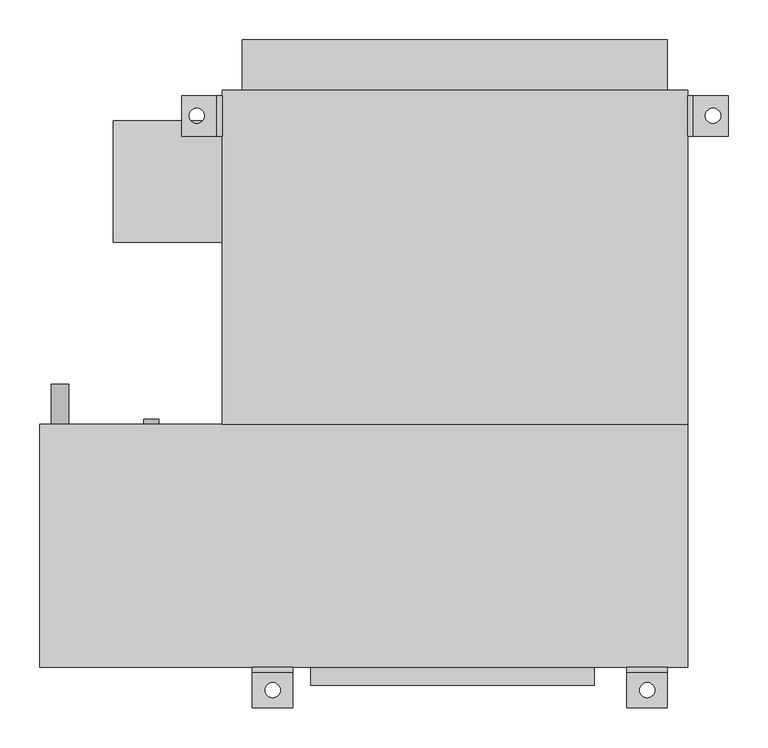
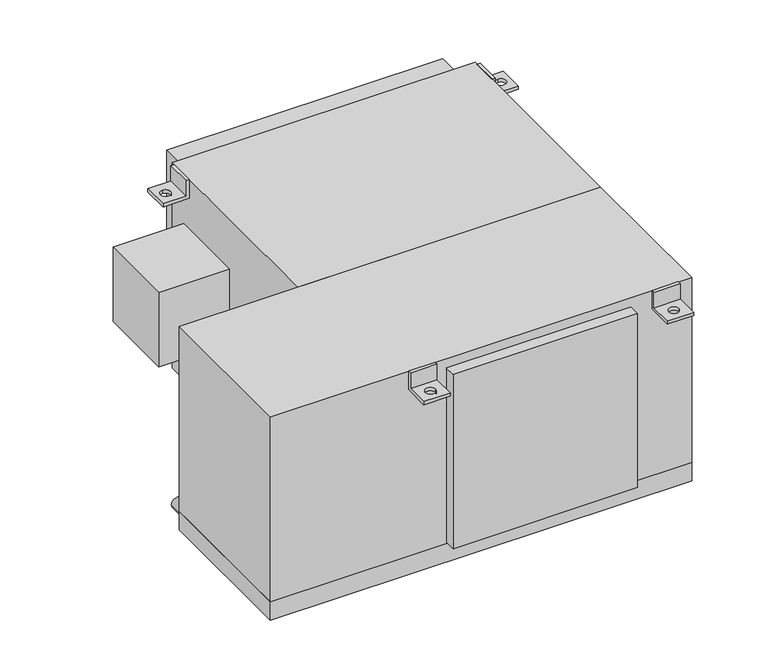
"""IFC4 building model written with IfcOpenShell, lengths in millimetres: proxy geometry, Concealed_High_Capacity_Horizontal_Fan_Coil_Unit_With_Plenum_-_42DCA_-_CARRIER_-_2-Pipe_Cool-EHeat_ValveEnclosure_LH_2022 : Size 06 - 277v/60Hz/1Ph - 6 Row 4.0kW."""

from ifc_helpers import new_model, si_unit, point, frame, frame_2d, origin, place, context, project, spatial, polyline, circle_curve, trimmed, segment, composite_curve, outline, extrude, source, transform, mapped, element, save
from ifc_brep_helpers import plane_surface, revolved_surface, advanced_brep


def mechanical_equipment_5e729664(model_context):
    return source(origin(), model_context, "Body", "SolidModel", [
        advanced_brep(
        [(419.1, -390.525, 0.0), (419.1, -396.875, 0.0), (419.1, -396.875, -31.75), (419.1, -441.325, -31.75), (419.1, -441.325, -38.1), (419.1, -390.525, -38.1), (368.3, -390.525, 0.0), (368.3, -390.525, -38.1), (368.3, -441.325, -38.1), (368.3, -441.325, -31.75), (368.3, -396.875, -31.75), (368.3, -396.875, 0.0), (384.175, -419.1, -31.75), (403.225, -419.1, -31.75), (403.225, -419.1, -38.1), (384.175, -419.1, -38.1)],
        [
            (0, 1),
            (1, 2),
            (2, 3),
            (3, 4),
            (4, 5),
            (5, 0),
            (6, 7),
            (7, 8),
            (8, 9),
            (9, 10),
            (10, 11),
            (11, 6),
            (0, 6),
            (11, 1),
            (10, 2),
            (9, 3),
            (12, 13, circle_curve(frame((393.7, -419.1, -31.75), z_axis=(0.0, 0.0, -1.0), x_axis=(1.0, 0.0, 0.0)), 9.525)),
            (13, 12, circle_curve(frame((393.7, -419.1, -31.75), z_axis=(0.0, 0.0, -1.0), x_axis=(1.0, 0.0, 0.0)), 9.525)),
            (8, 4),
            (7, 5),
            (14, 15, circle_curve(frame((393.7, -419.1, -38.1), z_axis=(0.0, 0.0, 1.0), x_axis=(1.0, 0.0, 0.0)), 9.525)),
            (15, 14, circle_curve(frame((393.7, -419.1, -38.1), z_axis=(0.0, 0.0, 1.0), x_axis=(1.0, 0.0, 0.0)), 9.525)),
            (12, 15),
            (14, 13),
        ],
        [
            plane_surface(frame((419.1, -396.875, 0.0), z_axis=(1.0, 0.0, 0.0), x_axis=(0.0, -1.0, 0.0))),
            plane_surface(frame((368.3, -396.875, 0.0), z_axis=(-1.0, 0.0, 0.0), x_axis=(0.0, 1.0, 0.0))),
            plane_surface(frame((419.1, -390.525, 0.0), z_axis=(0.0, 0.0, 1.0), x_axis=(-1.0, 0.0, 0.0))),
            plane_surface(frame((419.1, -396.875, 0.0), z_axis=(0.0, -1.0, 0.0), x_axis=(-1.0, 0.0, 0.0))),
            plane_surface(frame((419.1, -396.875, -31.75), z_axis=(0.0, 0.0, 1.0), x_axis=(-1.0, 0.0, 0.0))),
            plane_surface(frame((419.1, -441.325, -31.75), z_axis=(0.0, -1.0, 0.0), x_axis=(-1.0, 0.0, 0.0))),
            plane_surface(frame((419.1, -441.325, -38.1), z_axis=(0.0, 0.0, -1.0), x_axis=(-1.0, 0.0, 0.0))),
            plane_surface(frame((419.1, -390.525, -38.1), z_axis=(0.0, 1.0, 0.0), x_axis=(-1.0, 0.0, 0.0))),
            revolved_surface(polyline([(403.22499999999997, -419.1, -38.1), (403.22499999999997, -419.1, -31.75)]), (393.7, -419.1, -31.75), (0.0, 0.0, -1.0)),
        ],
        [
            (0, [[1, 2, 3, 4, 5, 6]]),
            (1, [[7, 8, 9, 10, 11, 12]]),
            (2, [[-1, 13, -12, 14]]),
            (3, [[-2, -14, -11, 15]]),
            (4, [[-3, -15, -10, 16], [17, 18]]),
            (5, [[-4, -16, -9, 19]]),
            (6, [[-5, -19, -8, 20], [21, 22]]),
            (7, [[-6, -20, -7, -13]]),
            (8, [[23, -21, 24, -17]]),
            (8, [[-23, -18, -24, -22]]),
        ],
    ),
        advanced_brep(
        [(-50.8, -390.525, -38.1), (-50.8, -390.525, 0.0), (-50.8, -396.875, 0.0), (-50.8, -396.875, -31.75), (-50.8, -441.325, -31.75), (-50.8, -441.325, -38.1), (-101.6, -390.525, -38.1), (-101.6, -441.325, -38.1), (-101.6, -441.325, -31.75), (-101.6, -396.875, -31.75), (-101.6, -396.875, 0.0), (-101.6, -390.525, 0.0), (-85.725, -419.1, -31.75), (-66.675, -419.1, -31.75), (-66.675, -419.1, -38.1), (-85.725, -419.1, -38.1)],
        [
            (0, 1),
            (1, 2),
            (2, 3),
            (3, 4),
            (4, 5),
            (5, 0),
            (6, 7),
            (7, 8),
            (8, 9),
            (9, 10),
            (10, 11),
            (11, 6),
            (0, 6),
            (11, 1),
            (10, 2),
            (9, 3),
            (8, 4),
            (12, 13, circle_curve(frame((-76.2, -419.1, -31.75), z_axis=(0.0, 0.0, -1.0), x_axis=(1.0, 0.0, 0.0)), 9.525)),
            (13, 12, circle_curve(frame((-76.2, -419.1, -31.75), z_axis=(0.0, 0.0, -1.0), x_axis=(1.0, 0.0, 0.0)), 9.525)),
            (7, 5),
            (14, 15, circle_curve(frame((-76.2, -419.1, -38.1), z_axis=(0.0, 0.0, 1.0), x_axis=(1.0, 0.0, 0.0)), 9.525)),
            (15, 14, circle_curve(frame((-76.2, -419.1, -38.1), z_axis=(0.0, 0.0, 1.0), x_axis=(1.0, 0.0, 0.0)), 9.525)),
            (12, 15),
            (14, 13),
        ],
        [
            plane_surface(frame((-50.8, -390.525, -38.1), z_axis=(1.0, 0.0, 0.0), x_axis=(0.0, 0.0, 1.0))),
            plane_surface(frame((-101.6, -390.525, -38.1), z_axis=(-1.0, 0.0, 0.0), x_axis=(0.0, 0.0, -1.0))),
            plane_surface(frame((-50.8, -390.525, -38.1), z_axis=(0.0, 1.0, 0.0), x_axis=(-1.0, 0.0, 0.0))),
            plane_surface(frame((-50.8, -390.525, 0.0), z_axis=(0.0, 0.0, 1.0), x_axis=(-1.0, 0.0, 0.0))),
            plane_surface(frame((-50.8, -396.875, 0.0), z_axis=(0.0, -1.0, 0.0), x_axis=(-1.0, 0.0, 0.0))),
            plane_surface(frame((-50.8, -396.875, -31.75), z_axis=(0.0, 0.0, 1.0), x_axis=(-1.0, 0.0, 0.0))),
            plane_surface(frame((-50.8, -441.325, -31.75), z_axis=(0.0, -1.0, 0.0), x_axis=(-1.0, 0.0, 0.0))),
            plane_surface(frame((-50.8, -441.325, -38.1), z_axis=(0.0, 0.0, -1.0), x_axis=(-1.0, 0.0, 0.0))),
            revolved_surface(polyline([(-66.675, -419.1, -38.1), (-66.675, -419.1, -31.75)]), (-76.2, -419.1, -31.75), (0.0, 0.0, -1.0)),
        ],
        [
            (0, [[1, 2, 3, 4, 5, 6]]),
            (1, [[7, 8, 9, 10, 11, 12]]),
            (2, [[-1, 13, -12, 14]]),
            (3, [[-2, -14, -11, 15]]),
            (4, [[-3, -15, -10, 16]]),
            (5, [[-4, -16, -9, 17], [18, 19]]),
            (6, [[-5, -17, -8, 20]]),
            (7, [[-6, -20, -7, -13], [21, 22]]),
            (8, [[23, -21, 24, -18]]),
            (8, [[-23, -19, -24, -22]]),
        ],
    ),
        extrude(outline(composite_curve([segment(trimmed(circle_curve(frame_2d((-400.05, -342.9)), 11.1125), [point((-400.05, -354.0125))], [point((-400.05, -331.7875))], False, "CARTESIAN"), True, "CONTINUOUS"), segment(trimmed(circle_curve(frame_2d((-400.05, -342.9)), 11.1125), [point((-400.05, -331.7875))], [point((-400.05, -354.0125))], False, "CARTESIAN"), True, "CONTINUOUS")], self_intersect=False)), frame((0.0, -85.725, 0.0), z_axis=(0.0, 1.0, 0.0), x_axis=(0.0, 0.0, 1.0)), (0.0, 0.0, 1.0), 50.8),
        extrude(outline(composite_curve([segment(trimmed(circle_curve(frame_2d((-44.45, -228.6)), 9.525), [point((-44.45, -238.125))], [point((-44.45, -219.075))], False, "CARTESIAN"), True, "CONTINUOUS"), segment(trimmed(circle_curve(frame_2d((-44.45, -228.6)), 9.525), [point((-44.45, -219.075))], [point((-44.45, -238.125))], False, "CARTESIAN"), True, "CONTINUOUS")], self_intersect=False)), frame((0.0, -85.725, 0.0), z_axis=(0.0, 1.0, 0.0), x_axis=(0.0, 0.0, 1.0)), (0.0, 0.0, 1.0), 6.35),
        extrude(outline(composite_curve([segment(trimmed(circle_curve(frame_2d((-276.225, -228.6)), 9.525), [point((-276.225, -238.125))], [point((-276.225, -219.075))], False, "CARTESIAN"), True, "CONTINUOUS"), segment(trimmed(circle_curve(frame_2d((-276.225, -228.6)), 9.525), [point((-276.225, -219.075))], [point((-276.225, -238.125))], False, "CARTESIAN"), True, "CONTINUOUS")], self_intersect=False)), frame((0.0, -85.725, 0.0), z_axis=(0.0, 1.0, 0.0), x_axis=(0.0, 0.0, 1.0)), (0.0, 0.0, 1.0), 6.35),
        advanced_brep(
        [(-139.7, 327.025, -38.1), (-190.5, 327.025, -38.1), (-190.5, 327.025, -31.75), (-146.05, 327.025, -31.75), (-146.05, 327.025, 0.0), (-139.7, 327.025, 0.0), (-139.7, 276.225, -38.1), (-139.7, 276.225, 0.0), (-146.05, 276.225, 0.0), (-146.05, 276.225, -31.75), (-190.5, 276.225, -31.75), (-190.5, 276.225, -38.1), (-171.45, 292.1, -38.1), (-171.45, 311.15, -38.1), (-171.45, 311.15, -31.75), (-171.45, 292.1, -31.75)],
        [
            (0, 1),
            (1, 2),
            (2, 3),
            (3, 4),
            (4, 5),
            (5, 0),
            (6, 7),
            (7, 8),
            (8, 9),
            (9, 10),
            (10, 11),
            (11, 6),
            (0, 6),
            (11, 1),
            (12, 13, circle_curve(frame((-171.45, 301.625, -38.1), z_axis=(0.0, 0.0, 1.0), x_axis=(0.0, -1.0, 0.0)), 9.525)),
            (13, 12, circle_curve(frame((-171.45, 301.625, -38.1), z_axis=(0.0, 0.0, 1.0), x_axis=(0.0, -1.0, 0.0)), 9.525)),
            (10, 2),
            (9, 3),
            (14, 15, circle_curve(frame((-171.45, 301.625, -31.75), z_axis=(0.0, 0.0, -1.0), x_axis=(0.0, -1.0, 0.0)), 9.525)),
            (15, 14, circle_curve(frame((-171.45, 301.625, -31.75), z_axis=(0.0, 0.0, -1.0), x_axis=(0.0, -1.0, 0.0)), 9.525)),
            (8, 4),
            (7, 5),
            (14, 13),
            (12, 15),
        ],
        [
            plane_surface(frame((-139.7, 327.025, -38.1), z_axis=(0.0, 1.0, 0.0), x_axis=(-1.0, 0.0, 0.0))),
            plane_surface(frame((-139.7, 276.225, -38.1), z_axis=(0.0, -1.0, 0.0), x_axis=(1.0, 0.0, 0.0))),
            plane_surface(frame((-139.7, 327.025, -38.1), z_axis=(0.0, 0.0, -1.0), x_axis=(0.0, -1.0, 0.0))),
            plane_surface(frame((-190.5, 327.025, -38.1), z_axis=(-1.0, 0.0, 0.0), x_axis=(0.0, -1.0, 0.0))),
            plane_surface(frame((-190.5, 327.025, -31.75), z_axis=(0.0, 0.0, 1.0), x_axis=(0.0, -1.0, 0.0))),
            plane_surface(frame((-146.05, 327.025, -31.75), z_axis=(-1.0, 0.0, 0.0), x_axis=(0.0, -1.0, 0.0))),
            plane_surface(frame((-146.05, 327.025, 0.0), z_axis=(0.0, 0.0, 1.0), x_axis=(0.0, -1.0, 0.0))),
            plane_surface(frame((-139.7, 327.025, 0.0), z_axis=(1.0, 0.0, 0.0), x_axis=(0.0, -1.0, 0.0))),
            revolved_surface(polyline([(-171.45, 292.1, -38.1), (-171.45, 292.1, -31.75)]), (-171.45, 301.625, -31.75), (0.0, 0.0, -1.0)),
        ],
        [
            (0, [[1, 2, 3, 4, 5, 6]]),
            (1, [[7, 8, 9, 10, 11, 12]]),
            (2, [[-1, 13, -12, 14], [15, 16]]),
            (3, [[-2, -14, -11, 17]]),
            (4, [[-3, -17, -10, 18], [19, 20]]),
            (5, [[-4, -18, -9, 21]]),
            (6, [[-5, -21, -8, 22]]),
            (7, [[-6, -22, -7, -13]]),
            (8, [[23, -15, 24, -19]]),
            (8, [[-23, -20, -24, -16]]),
        ],
    ),
        advanced_brep(
        [(444.5, 327.025, -38.1), (444.5, 327.025, 0.0), (450.85, 327.025, 0.0), (450.85, 327.025, -31.75), (495.3, 327.025, -31.75), (495.3, 327.025, -38.1), (444.5, 276.225, -38.1), (495.3, 276.225, -38.1), (495.3, 276.225, -31.75), (450.85, 276.225, -31.75), (450.85, 276.225, 0.0), (444.5, 276.225, 0.0), (476.25, 311.15, -31.75), (476.25, 292.1, -31.75), (476.25, 292.1, -38.1), (476.25, 311.15, -38.1)],
        [
            (0, 1),
            (1, 2),
            (2, 3),
            (3, 4),
            (4, 5),
            (5, 0),
            (6, 7),
            (7, 8),
            (8, 9),
            (9, 10),
            (10, 11),
            (11, 6),
            (0, 6),
            (11, 1),
            (10, 2),
            (9, 3),
            (8, 4),
            (12, 13, circle_curve(frame((476.25, 301.625, -31.75), z_axis=(0.0, 0.0, -1.0), x_axis=(0.0, -1.0, 0.0)), 9.525)),
            (13, 12, circle_curve(frame((476.25, 301.625, -31.75), z_axis=(0.0, 0.0, -1.0), x_axis=(0.0, -1.0, 0.0)), 9.525)),
            (7, 5),
            (14, 15, circle_curve(frame((476.25, 301.625, -38.1), z_axis=(0.0, 0.0, 1.0), x_axis=(0.0, -1.0, 0.0)), 9.525)),
            (15, 14, circle_curve(frame((476.25, 301.625, -38.1), z_axis=(0.0, 0.0, 1.0), x_axis=(0.0, -1.0, 0.0)), 9.525)),
            (12, 15),
            (14, 13),
        ],
        [
            plane_surface(frame((-139.7, 327.025, -38.1), z_axis=(0.0, 1.0, 0.0), x_axis=(-1.0, 0.0, 0.0))),
            plane_surface(frame((-139.7, 276.225, -38.1), z_axis=(0.0, -1.0, 0.0), x_axis=(1.0, 0.0, 0.0))),
            plane_surface(frame((444.5, 327.025, -38.1), z_axis=(-1.0, 0.0, 0.0), x_axis=(0.0, -1.0, 0.0))),
            plane_surface(frame((444.5, 327.025, 0.0), z_axis=(0.0, 0.0, 1.0), x_axis=(0.0, -1.0, 0.0))),
            plane_surface(frame((450.85, 327.025, 0.0), z_axis=(1.0, 0.0, 0.0), x_axis=(0.0, -1.0, 0.0))),
            plane_surface(frame((450.85, 327.025, -31.75), z_axis=(0.0, 0.0, 1.0), x_axis=(0.0, -1.0, 0.0))),
            plane_surface(frame((495.3, 327.025, -31.75), z_axis=(1.0, 0.0, 0.0), x_axis=(0.0, -1.0, 0.0))),
            plane_surface(frame((495.3, 327.025, -38.1), z_axis=(0.0, 0.0, -1.0), x_axis=(0.0, -1.0, 0.0))),
            revolved_surface(polyline([(476.25, 292.1, -38.1), (476.25, 292.1, -31.75)]), (476.25, 301.625, -31.75), (0.0, 0.0, -1.0)),
        ],
        [
            (0, [[1, 2, 3, 4, 5, 6]]),
            (1, [[7, 8, 9, 10, 11, 12]]),
            (2, [[-1, 13, -12, 14]]),
            (3, [[-2, -14, -11, 15]]),
            (4, [[-3, -15, -10, 16]]),
            (5, [[-4, -16, -9, 17], [18, 19]]),
            (6, [[-5, -17, -8, 20]]),
            (7, [[-6, -20, -7, -13], [21, 22]]),
            (8, [[23, -21, 24, -18]]),
            (8, [[-23, -19, -24, -22]]),
        ],
    ),
        extrude(outline(polyline([(-114.3, 396.875), (419.1, 396.875), (419.1, 333.375), (-114.3, 333.375), (-114.3, 396.875)])), frame((0.0, 0.0, -377.825), z_axis=(0.0, 0.0, 1.0), x_axis=(1.0, 0.0, 0.0)), (0.0, 0.0, 1.0), 355.6),
        extrude(outline(polyline([(-276.225, 142.875), (-276.225, 295.275), (-139.7, 295.275), (-139.7, 142.875), (-276.225, 142.875)])), frame((0.0, 0.0, -254.0), z_axis=(0.0, 0.0, 1.0), x_axis=(1.0, 0.0, 0.0)), (0.0, 0.0, 1.0), 152.4),
        extrude(outline(polyline([(327.025, -412.75), (-28.575, -412.75), (-28.575, -390.525), (327.025, -390.525), (327.025, -412.75)])), frame((0.0, 0.0, -374.65), z_axis=(0.0, 0.0, 1.0), x_axis=(1.0, 0.0, 0.0)), (0.0, 0.0, 1.0), 355.6),
        extrude(outline(polyline([(444.5, -85.725), (-139.7, -85.725), (-139.7, 333.375), (444.5, 333.375), (444.5, -85.725)])), frame((0.0, 0.0, -419.1), z_axis=(0.0, 0.0, 1.0), x_axis=(1.0, 0.0, 0.0)), (0.0, 0.0, 1.0), 419.1),
        extrude(outline(polyline([(444.5, -85.725), (444.5, -390.525), (-368.3, -390.525), (-368.3, -85.725), (444.5, -85.725)])), frame((0.0, 0.0, -377.825), z_axis=(0.0, 0.0, 1.0), x_axis=(1.0, 0.0, 0.0)), (0.0, 0.0, 1.0), 377.825),
        extrude(outline(polyline([(444.5, -85.725), (444.5, -390.525), (-368.3, -390.525), (-368.3, -85.725), (444.5, -85.725)])), frame((0.0, 0.0, -415.925), z_axis=(0.0, 0.0, 1.0), x_axis=(1.0, 0.0, 0.0)), (0.0, 0.0, 1.0), 38.1),
    ])


if __name__ == "__main__":
    model = new_model("IFC4")
    model_context = context("Model", 3, world=origin())
    ifc_project = project(units=[si_unit("LENGTHUNIT", "METRE", prefix="MILLI")], contexts=[model_context])
    site = spatial("IfcSite", under=ifc_project)
    building = spatial("IfcBuilding", under=site)
    placement = place(None, origin())
    mechanical_equipment_shape = mechanical_equipment_5e729664(model_context)
    element("IfcBuildingElementProxy", 1, Name="Concealed_High_Capacity_Horizontal_Fan_Coil_Unit_With_Plenum_-_42DCA_-_CARRIER_-_2-Pipe_Cool-EHeat_ValveEnclosure_LH_2022 : Size 06 - 277v/60Hz/1Ph - 6 Row 4.0kW", ObjectType="Concealed_High_Capacity_Horizontal_Fan_Coil_Unit_With_Plenum_-_42DCA_-_CARRIER_-_2-Pipe_Cool-EHeat_ValveEnclosure_LH_2022 : Size 06 - 277v/60Hz/1Ph - 6 Row 4.0kW", at=placement, inside=building, context=model_context, shape_type="MappedRepresentation", body=[
        mapped(mechanical_equipment_shape, transform((0.0, 0.0, 0.0), x_axis=(1.0, 0.0, 0.0), y_axis=(0.0, 1.0, 0.0), z_axis=(0.0, 0.0, 1.0))),
    ])
    save(model, "model.ifc")
